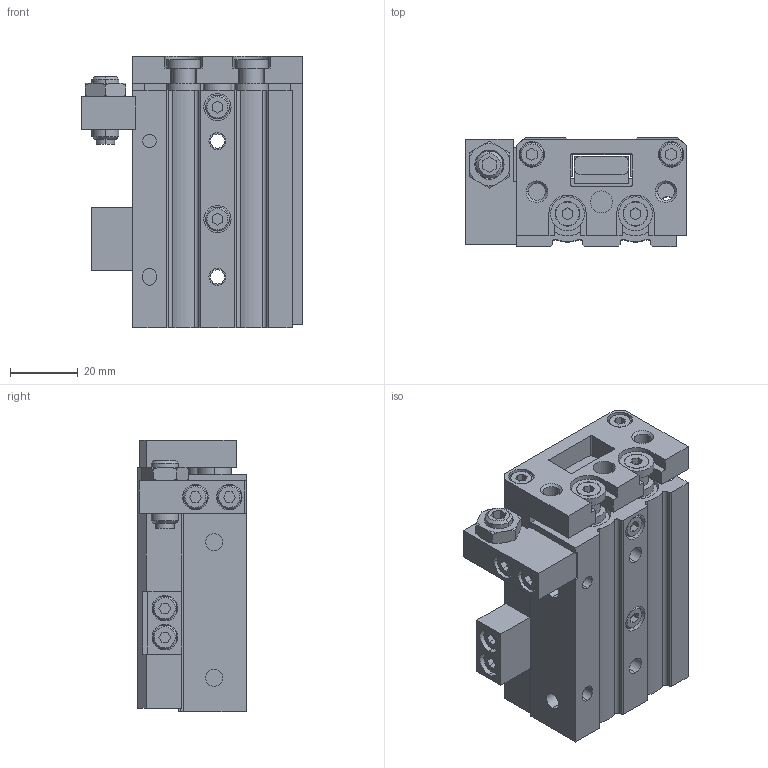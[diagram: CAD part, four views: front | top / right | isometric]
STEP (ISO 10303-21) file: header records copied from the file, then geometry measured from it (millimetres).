
FILE_DESCRIPTION (( 'STEP AP214' ), '1' );
FILE_NAME ('MXS12-20AS.step.step', '2023-01-08T07:43:14', ( '' ), ( '' ), 'SwSTEP 2.0', 'SolidWorks 2022', '' );
FILE_SCHEMA (( 'AUTOMOTIVE_DESIGN' ));
Length unit declared in the file: millimetre
Products named in the file (9): MXS12-20AS.step_MXS_FrontPlate_12; MXS12-20AS.step; MXS12-20AS.step_MXS_Table_12-20; MXS12-20AS.step_MXS_Rail_12-20; MXS12-20AS.step_MXS_Shock_12A; MXS12-20AS.step_MXS_Rod_12-20; MXS12-20AS.step_MXS_A+B Block_12A; MXS12-20AS.step_MXS_AS+AT Block_12AS; MXS12-20AS.step_MXS_Body_12-20
Assembly tree (9 placements, depth 2):
  MXS12-20AS.step
    MXS12-20AS.step_MXS_Body_12-20
    MXS12-20AS.step_MXS_Rail_12-20
    MXS12-20AS.step_MXS_Table_12-20
    MXS12-20AS.step_MXS_FrontPlate_12
    MXS12-20AS.step_MXS_Rod_12-20  x2
    MXS12-20AS.step_MXS_A+B Block_12A
    MXS12-20AS.step_MXS_AS+AT Block_12AS
    MXS12-20AS.step_MXS_Shock_12A
Bounding box: 65 x 32 x 80 mm (x, y, z)
Volume: 104765.6 mm3; surface area: 45682.4 mm2
Topology: 9 solids, 9 shells, 511 faces, 1210 edges, 790 vertices
Faces by surface type: plane 275, cylinder 184, cone 52
Entity records: 14571 total; most frequent: DIRECTION 2508, CARTESIAN_POINT 2498, ORIENTED_EDGE 2300, EDGE_CURVE 1150, AXIS2_PLACEMENT_3D 888, VERTEX_POINT 750, LINE 732, VECTOR 732
